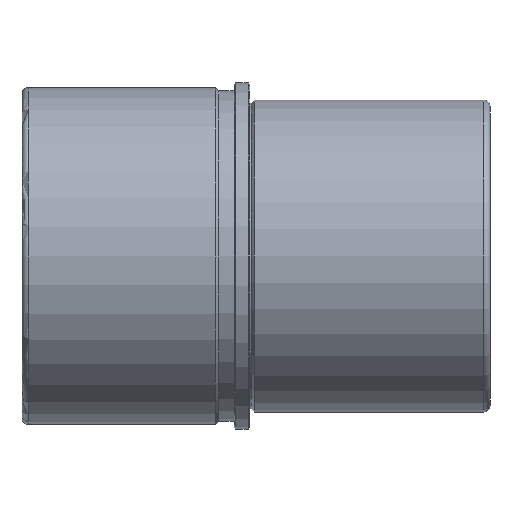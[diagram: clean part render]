
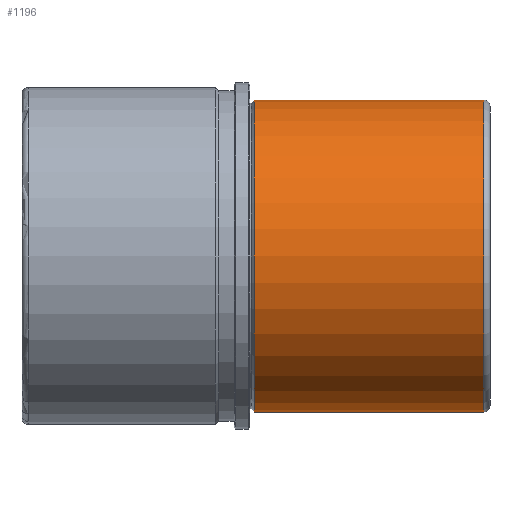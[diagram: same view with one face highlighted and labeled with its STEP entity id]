
A CAD part, front view. The second image highlights one B-rep face of the part: STEP entity #1196.
In plain terms, the highlighted cylindrical face has radius 50 mm (diameter 100 mm), a partial arc.
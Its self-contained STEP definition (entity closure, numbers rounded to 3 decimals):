
#954=CARTESIAN_POINT('Vertex',(75.,0.,50.)) ;
#961=CARTESIAN_POINT('Vertex',(75.,0.,-50.)) ;
#990=CARTESIAN_POINT('Axis2P3D Location',(75.,0.,0.)) ;
#994=CARTESIAN_POINT('Vertex',(75.,-50.,0.)) ;
#997=CARTESIAN_POINT('Axis2P3D Location',(75.,0.,0.)) ;
#1136=CARTESIAN_POINT('Line Origine',(77.,0.,50.)) ;
#1140=CARTESIAN_POINT('Vertex',(1.414,0.,50.)) ;
#1143=CARTESIAN_POINT('Line Origine',(77.,0.,-50.)) ;
#1147=CARTESIAN_POINT('Vertex',(1.414,0.,-50.)) ;
#1171=CARTESIAN_POINT('Axis2P3D Location',(77.,0.,0.)) ;
#1176=CARTESIAN_POINT('Axis2P3D Location',(1.414,0.,0.)) ;
#1180=CARTESIAN_POINT('Vertex',(1.414,-50.,0.)) ;
#1183=CARTESIAN_POINT('Axis2P3D Location',(1.414,0.,0.)) ;
#991=DIRECTION('Axis2P3D Direction',(1.,0.,-0.)) ;
#998=DIRECTION('Axis2P3D Direction',(1.,0.,-0.)) ;
#1137=DIRECTION('Vector Direction',(-1.,0.,0.)) ;
#1144=DIRECTION('Vector Direction',(-1.,0.,0.)) ;
#1172=DIRECTION('Axis2P3D Direction',(-1.,-0.,-0.)) ;
#1173=DIRECTION('Axis2P3D XDirection',(0.,0.,-1.)) ;
#1177=DIRECTION('Axis2P3D Direction',(-1.,-0.,-0.)) ;
#1184=DIRECTION('Axis2P3D Direction',(-1.,-0.,-0.)) ;
#992=AXIS2_PLACEMENT_3D('Circle Axis2P3D',#990,#991,$) ;
#999=AXIS2_PLACEMENT_3D('Circle Axis2P3D',#997,#998,$) ;
#1174=AXIS2_PLACEMENT_3D('Cylinder Axis2P3D',#1171,#1172,#1173) ;
#1178=AXIS2_PLACEMENT_3D('Circle Axis2P3D',#1176,#1177,$) ;
#1185=AXIS2_PLACEMENT_3D('Circle Axis2P3D',#1183,#1184,$) ;
#1189=ORIENTED_EDGE('',*,*,#1149,.T.) ;
#1190=ORIENTED_EDGE('',*,*,#1001,.F.) ;
#1191=ORIENTED_EDGE('',*,*,#996,.F.) ;
#1192=ORIENTED_EDGE('',*,*,#1142,.T.) ;
#1193=ORIENTED_EDGE('',*,*,#1182,.T.) ;
#1194=ORIENTED_EDGE('',*,*,#1187,.T.) ;
#1138=VECTOR('Line Direction',#1137,1.) ;
#1145=VECTOR('Line Direction',#1144,1.) ;
#1196=ADVANCED_FACE('FAMO-SF1-D80 x 150',(#1195),#1175,.T.) ;
#993=CIRCLE('generated circle',#992,50.) ;
#1000=CIRCLE('generated circle',#999,50.) ;
#1179=CIRCLE('generated circle',#1178,50.) ;
#1186=CIRCLE('generated circle',#1185,50.) ;
#1175=CYLINDRICAL_SURFACE('generated cylinder',#1174,50.) ;
#996=EDGE_CURVE('',#955,#995,#993,.T.) ;
#1001=EDGE_CURVE('',#995,#962,#1000,.T.) ;
#1142=EDGE_CURVE('',#955,#1141,#1139,.T.) ;
#1149=EDGE_CURVE('',#1148,#962,#1146,.F.) ;
#1182=EDGE_CURVE('',#1141,#1181,#1179,.F.) ;
#1187=EDGE_CURVE('',#1181,#1148,#1186,.F.) ;
#1188=EDGE_LOOP('',(#1189,#1190,#1191,#1192,#1193,#1194)) ;
#1195=FACE_OUTER_BOUND('',#1188,.T.) ;
#1139=LINE('Line',#1136,#1138) ;
#1146=LINE('Line',#1143,#1145) ;
#955=VERTEX_POINT('',#954) ;
#962=VERTEX_POINT('',#961) ;
#995=VERTEX_POINT('',#994) ;
#1141=VERTEX_POINT('',#1140) ;
#1148=VERTEX_POINT('',#1147) ;
#1181=VERTEX_POINT('',#1180) ;
